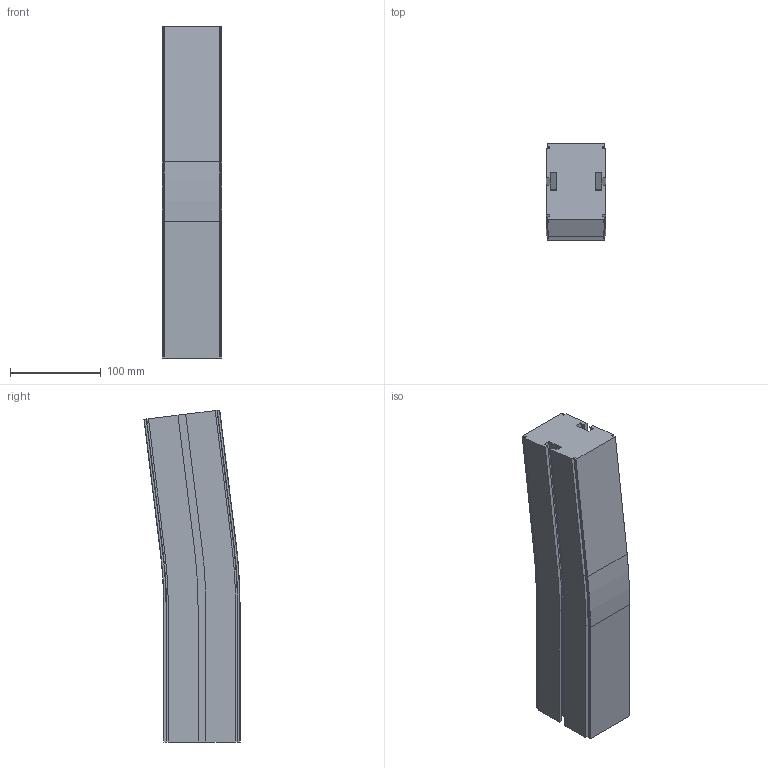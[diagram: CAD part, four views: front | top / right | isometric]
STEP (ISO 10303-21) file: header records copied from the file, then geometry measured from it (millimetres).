
FILE_DESCRIPTION (( 'STEP AP214' ), '1' );
FILE_NAME ('CS SL Verticaalbocht.65 7°.STEP', '2017-02-08T07:37:16', ( '' ), ( '' ), 'SwSTEP 2.0', 'SolidWorks 2016', '' );
FILE_SCHEMA (( 'AUTOMOTIVE_DESIGN' ));
Length unit declared in the file: millimetre
Products named in the file (1): CS SL Verticaalbocht.65 7°
Bounding box: 65 x 105.69 x 364.94 mm (x, y, z)
Volume: 1825158.8 mm3; surface area: 155973.7 mm2
Topology: 1 solids, 1 shells, 98 faces, 272 edges, 176 vertices
Faces by surface type: plane 72, cylinder 18, cone 8
Entity records: 3126 total; most frequent: CARTESIAN_POINT 547, ORIENTED_EDGE 544, DIRECTION 514, EDGE_CURVE 272, LINE 228, VECTOR 228, VERTEX_POINT 176, AXIS2_PLACEMENT_3D 143
